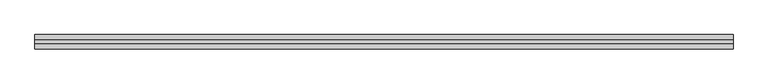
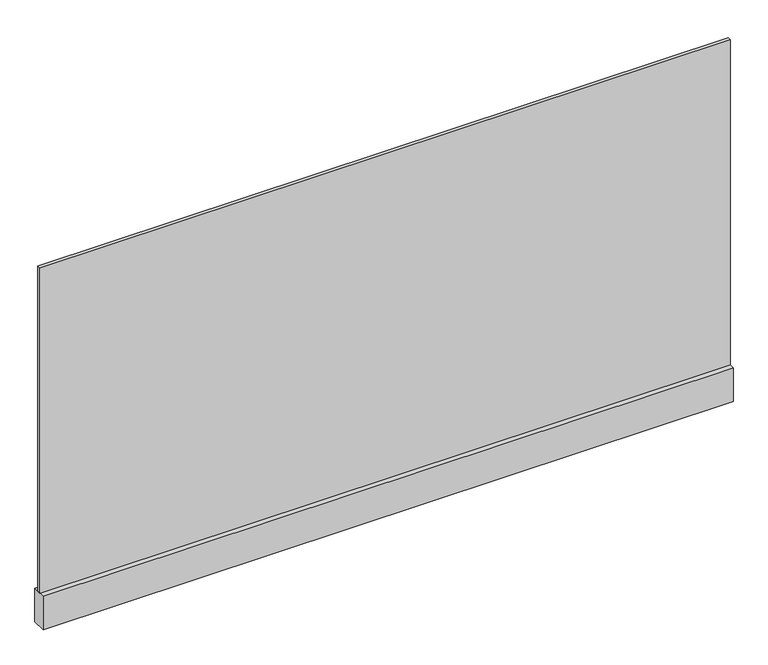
"""IFC4 building model written with IfcOpenShell, lengths in millimetres: plate geometry, r パネル FIX 下框付 : 框 H100."""

from ifc_helpers import new_model, si_unit, frame, origin, origin_with_axes, place, context, project, spatial, polyline, outline, extrude, source, transform, mapped, element, save


def plate_b830f844(model_context):
    return source(origin(), model_context, "Body", "SweptSolid", [
        extrude(outline(polyline([(-978.3333333, 5.0), (978.3333333, 5.0), (978.3333333, -5.0), (-978.3333333, -5.0), (-978.3333333, 5.0)])), frame((0.0, 0.0, 100.0), z_axis=(0.0, 0.0, 1.0), x_axis=(1.0, 0.0, 0.0)), (0.0, 0.0, 1.0), 975.0),
        extrude(outline(polyline([(-978.3333333, 20.0), (978.3333333, 20.0), (978.3333333, -20.0), (-978.3333333, -20.0), (-978.3333333, 20.0)])), origin_with_axes(), (0.0, 0.0, 1.0), 100.0),
    ])


if __name__ == "__main__":
    model = new_model("IFC4")
    model_context = context("Model", 3, world=origin())
    ifc_project = project(units=[si_unit("LENGTHUNIT", "METRE", prefix="MILLI")], contexts=[model_context])
    site = spatial("IfcSite", under=ifc_project)
    building = spatial("IfcBuilding", under=site)
    placement = place(None, origin())
    plate_shape = plate_b830f844(model_context)
    element("IfcPlate", 1, ObjectType="r パネル FIX 下框付 : 框 H100", at=placement, inside=building, context=model_context, shape_type="MappedRepresentation", body=[
        mapped(plate_shape, transform((0.0, 0.0, 0.0), x_axis=(1.0, 0.0, 0.0), y_axis=(0.0, 1.0, 0.0), z_axis=(0.0, 0.0, 1.0))),
    ])
    save(model, "model.ifc")
